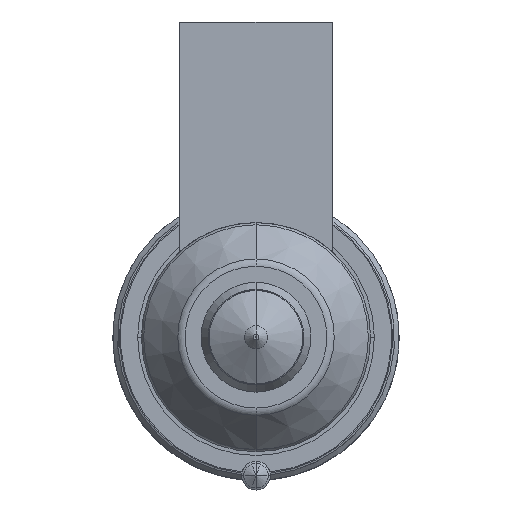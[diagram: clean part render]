
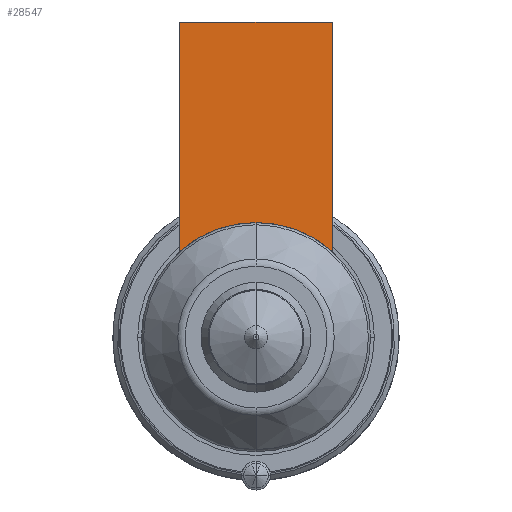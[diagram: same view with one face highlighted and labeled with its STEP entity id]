
A CAD part, front view. The second image highlights one B-rep face of the part: STEP entity #28547.
In plain terms, the highlighted planar face has unit normal (0, -1, 0).
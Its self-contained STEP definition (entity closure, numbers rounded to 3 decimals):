
#27732=DIRECTION('',(0.,0.,-1.));
#27733=VECTOR('',#27732,24.056);
#27734=CARTESIAN_POINT('',(-8.,-56.,33.));
#27735=LINE('',#27734,#27733);
#27747=CARTESIAN_POINT('',(0.,-56.,0.));
#27748=DIRECTION('',(0.,-1.,0.));
#27749=DIRECTION('',(0.,0.,1.));
#27750=AXIS2_PLACEMENT_3D('',#27747,#27748,#27749);
#27755=DIRECTION('',(1.,0.,0.));
#27756=VECTOR('',#27755,16.);
#27757=CARTESIAN_POINT('',(-8.,-56.,33.));
#27758=LINE('',#27757,#27756);
#27762=CARTESIAN_POINT('',(0.,-56.,0.));
#27763=DIRECTION('',(0.,-1.,0.));
#27764=DIRECTION('',(0.667,0.,0.745));
#27765=AXIS2_PLACEMENT_3D('',#27762,#27763,#27764);
#27911=DIRECTION('',(0.,0.,-1.));
#27912=VECTOR('',#27911,24.056);
#27913=CARTESIAN_POINT('',(8.,-56.,33.));
#27914=LINE('',#27913,#27912);
#28462=CARTESIAN_POINT('',(-8.,-56.,33.));
#28463=VERTEX_POINT('',#28462);
#28468=CARTESIAN_POINT('',(8.,-56.,33.));
#28469=VERTEX_POINT('',#28468);
#28471=CARTESIAN_POINT('',(-8.,-56.,8.944));
#28473=VERTEX_POINT('',#28471);
#28475=CARTESIAN_POINT('',(8.,-56.,8.944));
#28477=VERTEX_POINT('',#28475);
#28480=CARTESIAN_POINT('',(0.,-56.,12.));
#28481=VERTEX_POINT('',#28480);
#28532=CARTESIAN_POINT('',(-8.,-56.,33.));
#28533=DIRECTION('',(0.,-1.,0.));
#28534=DIRECTION('',(0.,0.,-1.));
#28535=AXIS2_PLACEMENT_3D('',#28532,#28533,#28534);
#28536=PLANE('',#28535);
#28537=ORIENTED_EDGE('',*,*,#28511,.T.);
#28538=ORIENTED_EDGE('',*,*,#28500,.F.);
#28540=ORIENTED_EDGE('',*,*,#28539,.T.);
#28542=ORIENTED_EDGE('',*,*,#28541,.T.);
#28544=ORIENTED_EDGE('',*,*,#28543,.T.);
#28545=EDGE_LOOP('',(#28537,#28538,#28540,#28542,#28544));
#28546=FACE_OUTER_BOUND('',#28545,.F.);
#28547=ADVANCED_FACE('',(#28546),#28536,.T.);
#27751=CIRCLE('',#27750,12.);
#27766=CIRCLE('',#27765,12.);
#28500=EDGE_CURVE('',#28463,#28473,#27735,.T.);
#28511=EDGE_CURVE('',#28481,#28473,#27751,.T.);
#28539=EDGE_CURVE('',#28463,#28469,#27758,.T.);
#28541=EDGE_CURVE('',#28469,#28477,#27914,.T.);
#28543=EDGE_CURVE('',#28477,#28481,#27766,.T.);
